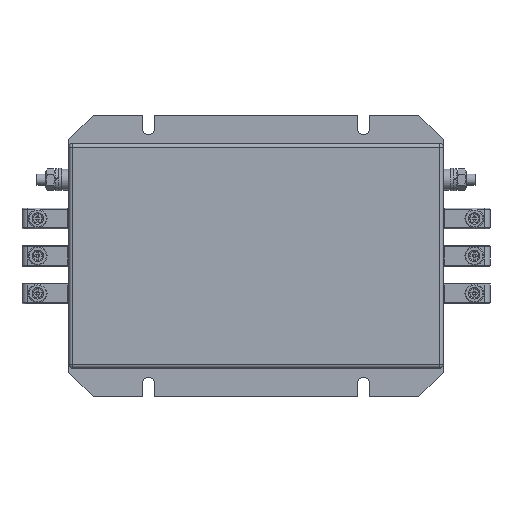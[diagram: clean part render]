
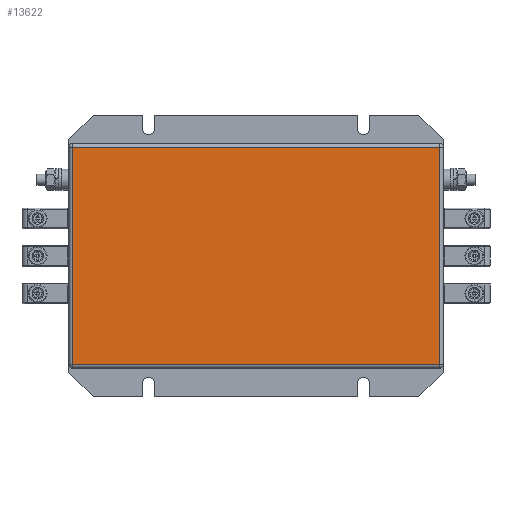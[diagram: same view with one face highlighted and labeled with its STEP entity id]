
A CAD part, top view. The second image highlights one B-rep face of the part: STEP entity #13622.
In plain terms, the highlighted planar face has unit normal (0, 0, 1).
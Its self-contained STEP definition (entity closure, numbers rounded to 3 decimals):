
#13332=CARTESIAN_POINT('',(-98.0,58.0,65.0));
#13333=VERTEX_POINT('',#13332);
#13342=CARTESIAN_POINT('',(-98.0,-58.0,65.0));
#13343=VERTEX_POINT('',#13342);
#13351=CARTESIAN_POINT('',(-98.,-58.,65.0));
#13352=DIRECTION('',(0.0,1.0,0.0));
#13353=VECTOR('',#13352,116.0);
#13354=LINE('',#13351,#13353);
#13355=EDGE_CURVE('',#13343,#13333,#13354,.T.);
#13365=CARTESIAN_POINT('',(98.0,58.,65.0));
#13366=VERTEX_POINT('',#13365);
#13391=CARTESIAN_POINT('',(-98.0,58.0,65.0));
#13392=DIRECTION('',(1.0,0.0,0.0));
#13393=VECTOR('',#13392,196.0);
#13394=LINE('',#13391,#13393);
#13395=EDGE_CURVE('',#13333,#13366,#13394,.T.);
#13422=CARTESIAN_POINT('',(98.0,-58.,65.0));
#13423=VERTEX_POINT('',#13422);
#13439=CARTESIAN_POINT('',(98.0,58.,65.0));
#13440=DIRECTION('',(0.0,-1.0,0.0));
#13441=VECTOR('',#13440,116.);
#13442=LINE('',#13439,#13441);
#13443=EDGE_CURVE('',#13366,#13423,#13442,.T.);
#13494=CARTESIAN_POINT('',(98.0,-58.,65.0));
#13495=DIRECTION('',(-1.0,0.0,0.0));
#13496=VECTOR('',#13495,196.0);
#13497=LINE('',#13494,#13496);
#13498=EDGE_CURVE('',#13423,#13343,#13497,.T.);
#13611=CARTESIAN_POINT('',(0.,0.0,65.0));
#13612=DIRECTION('',(0.0,0.0,1.0));
#13613=DIRECTION('',(1.0,0.0,0.0));
#13614=AXIS2_PLACEMENT_3D('',#13611,#13612,#13613);
#13615=PLANE('',#13614);
#13616=ORIENTED_EDGE('',*,*,#13355,.F.);
#13617=ORIENTED_EDGE('',*,*,#13498,.F.);
#13618=ORIENTED_EDGE('',*,*,#13443,.F.);
#13619=ORIENTED_EDGE('',*,*,#13395,.F.);
#13620=EDGE_LOOP('',(#13616,#13617,#13618,#13619));
#13621=FACE_OUTER_BOUND('',#13620,.T.);
#13622=ADVANCED_FACE('',(#13621),#13615,.T.);
